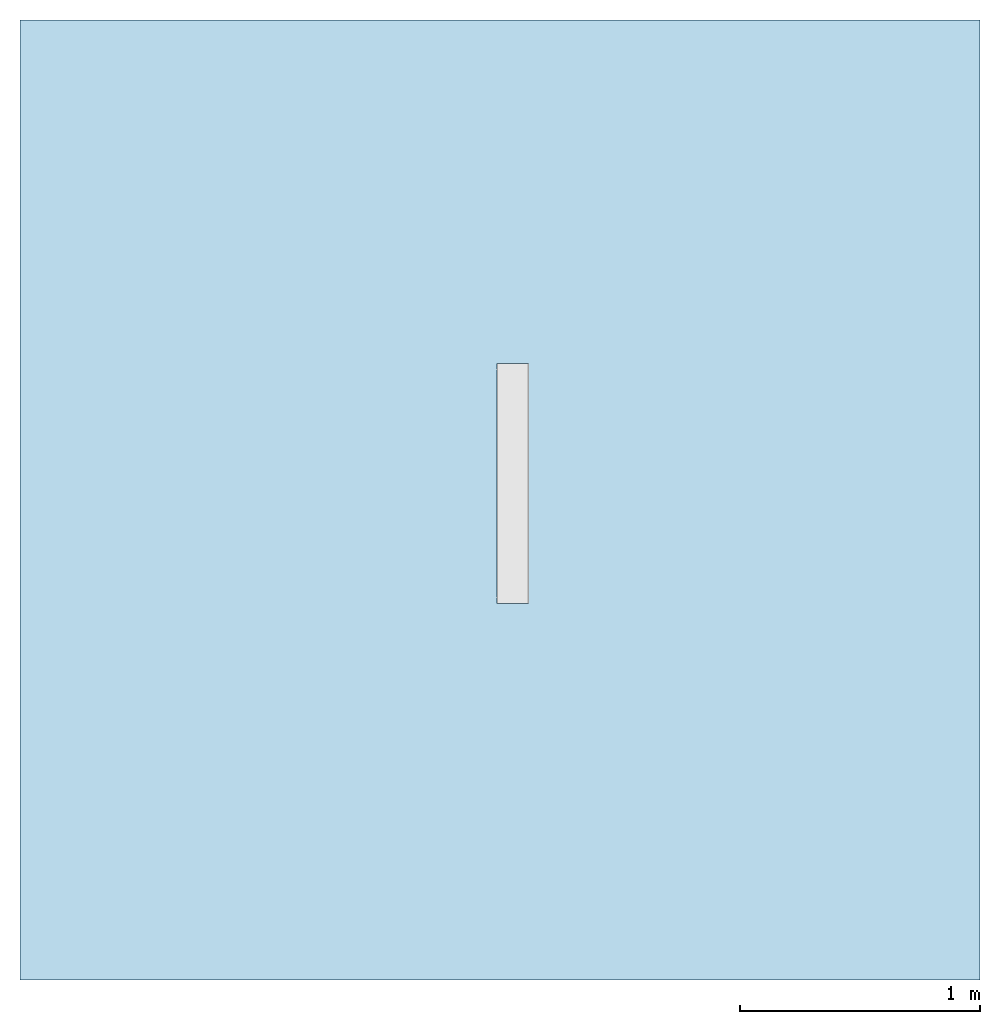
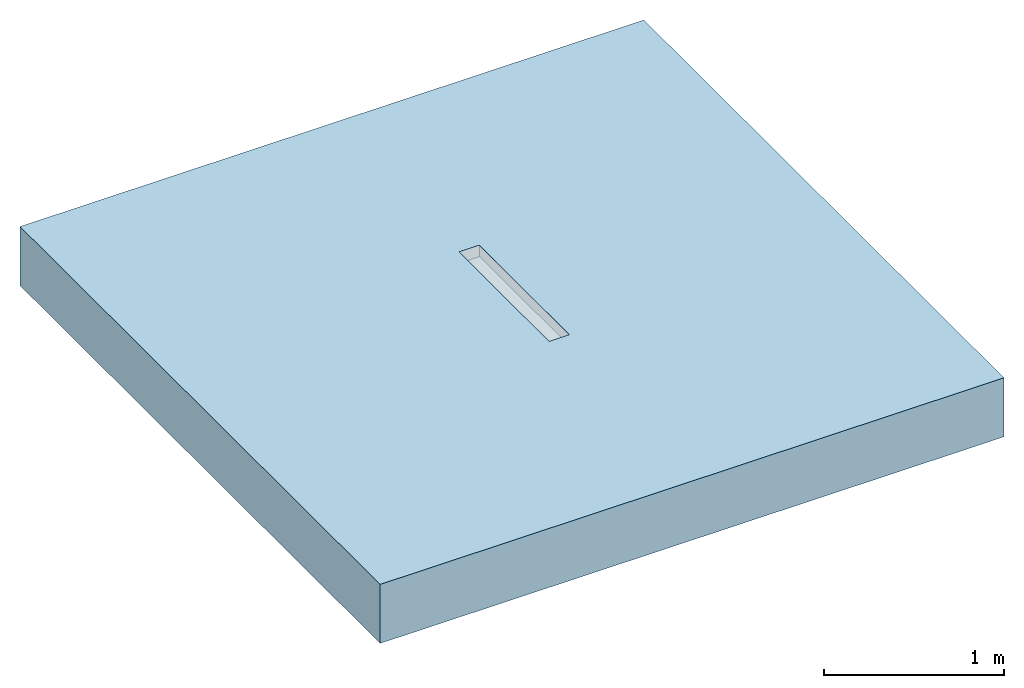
# One storey, incomplete: 1 slab, 1 opening.
"""IFC2X3 building model written with IfcOpenShell, lengths in millimetres."""

from ifc_helpers import new_model, entity, si_unit, converted_unit, derived_unit, direction, frame, frame_2d, origin, place, context, subcontext, project, spatial, polyline, rectangle, outline, extrude, material, layer, layer_set, layer_usage, element, save


model = new_model("IFC2X3")

# Units and contexts
model_context = context("Model", 3, precision=1e-05, world=origin(), true_north=direction((2.0, 6.12303176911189e-17, 1.0)))
context_of_model = context(None, 3, precision=1e-05, world=origin(), true_north=direction((2.0, 6.12303176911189e-17, 1.0)))
body_context = subcontext(model_context, "Body", "Model", "MODEL_VIEW")
ifc_project = project(units=[si_unit("LENGTHUNIT", "METRE", prefix="MILLI"), si_unit("AREAUNIT", "SQUARE_METRE"), si_unit("VOLUMEUNIT", "CUBIC_METRE"), converted_unit("PLANEANGLEUNIT", "DEGREE", entity("IfcRatioMeasure", 0.0174532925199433), si_unit("PLANEANGLEUNIT", "RADIAN"), dimensions=[0, 0, 0, 0, 0, 0, 0]), si_unit("MASSUNIT", "GRAM", prefix="KILO"), si_unit("TIMEUNIT", "SECOND"), si_unit("THERMODYNAMICTEMPERATUREUNIT", "KELVIN"), derived_unit("THERMALTRANSMITTANCEUNIT", [(si_unit("MASSUNIT", "GRAM", prefix="KILO"), 1), (si_unit("THERMODYNAMICTEMPERATUREUNIT", "KELVIN"), -1), (si_unit("TIMEUNIT", "SECOND"), -3)]), derived_unit("VOLUMETRICFLOWRATEUNIT", [(si_unit("LENGTHUNIT", "METRE"), 3), (si_unit("TIMEUNIT", "SECOND"), -1)]), si_unit("POWERUNIT", "WATT")], contexts=[model_context, context_of_model])

# Site, building, storey
site_placement = place(None, origin())
site = spatial("IfcSite", under=ifc_project, at=site_placement, Name="Default", CompositionType="ELEMENT")
building_placement = place(site_placement, origin())
building = spatial("IfcBuilding", under=site, at=building_placement, CompositionType="ELEMENT")
storey_placement = place(building_placement, origin())
storey = spatial("IfcBuildingStorey", under=building, at=storey_placement, Name="Level 1", CompositionType="ELEMENT", Elevation=0.0)

# Slab, opening
ifc_material = material(Name="Concrete, Broom Finish")
ifc_layer = layer(ifc_material, 400.0)
ifc_layer_set = layer_set([ifc_layer], Name="Floor:Generic Floor - 400mm")
ifc_layer_usage = layer_usage(ifc_layer_set, "AXIS3", "POSITIVE", 0.0)
slab_placement = place(storey_placement, origin())
slab = element("IfcSlab", 1, at=slab_placement, inside=storey, material=ifc_layer_usage, Name="Floor:Generic Floor - 400mm", ObjectType="Floor:Generic Floor - 400mm", PredefinedType="FLOOR", context=body_context, shape_type="SweptSolid", body=[
    extrude(rectangle(XDim=4000.0, YDim=4000.0, at=frame_2d((0.0, 0.0), x_axis=(0.0, -1.0))), frame((-42.176138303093, 2.05004766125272, 0.0), z_axis=(0.0, 0.0, -1.0), x_axis=(-1.0, 0.0, 0.0)), (0.0, 0.0, 1.0), 400.0),
])
opening_placement = place(slab_placement, origin())
element("IfcOpeningElement", 2, at=opening_placement, cuts=slab, ObjectType="Recess", context=body_context, shape_type="SweptSolid", body=[
    extrude(outline(polyline([(-3.75000000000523, -67.0), (42.2499999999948, -67.0), (42.2499999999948, 67.0), (-3.75000000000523, 67.0), (-3.74999999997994, 65.0), (-34.7500000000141, 65.0), (-34.7499999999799, -65.0), (-3.75000000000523, -65.0), (-3.75000000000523, -67.0)])), frame((11.296083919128, -429.547174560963, -34.7500000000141), z_axis=(0.0, 1.0, 0.0), x_axis=(0.0, 0.0, -1.0)), (0.0, 0.0, 1.0), 1000.0),
])

save(model, "model.ifc")
